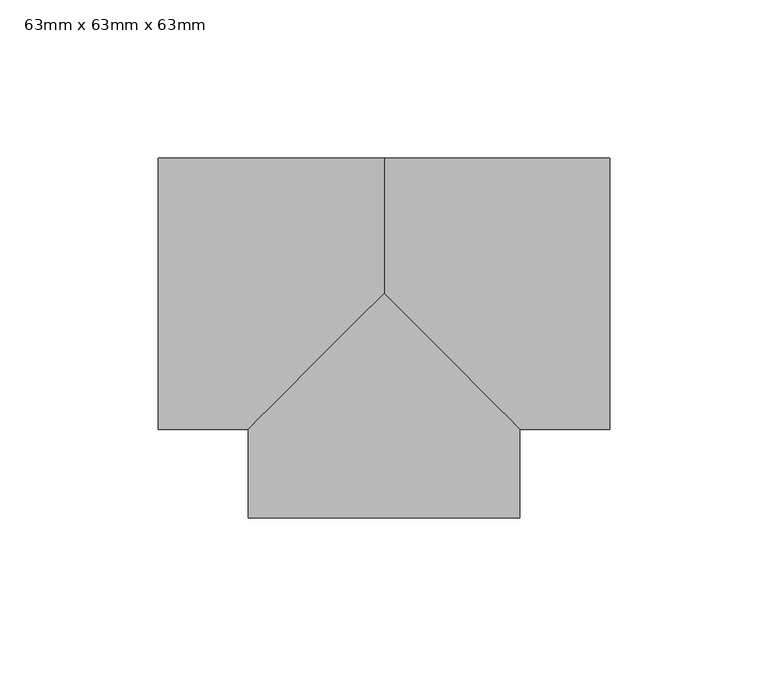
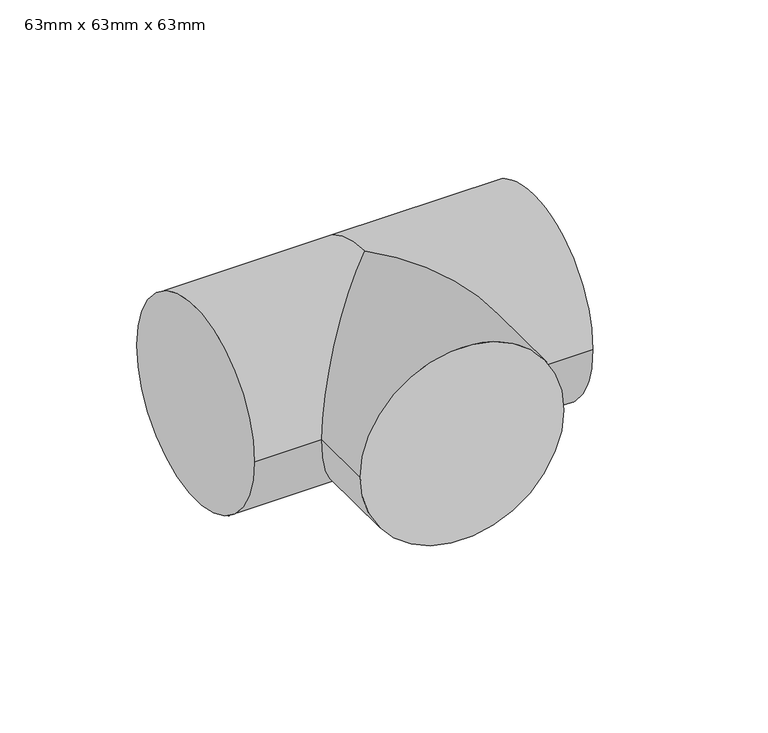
"""IFC4 building model written with IfcOpenShell, lengths in millimetres: pipe fitting geometry, PipeFitting_HTA_CPVC_Tees90° : 63mm x 63mm x 63mm."""

import ifcopenshell
import ifcopenshell.guid

model = None  # the IFC model being written
_history = None  # IfcOwnerHistory: only IFC2X3 demands one
_inside = {}  # id of a spatial element -> (the spatial element, [elements in it])
_under = {}  # id of a project, library or spatial element -> (it, [spatial elements below it])
_declared = {}  # id of a project -> (the project, [libraries it declares])
_typed = {}  # id of a type object -> (the type object, [elements of that type])
_made_of = {}  # id of a material, layer set ... -> (it, [elements and type objects made of it])


def new_model(schema):
    """Start an empty IFC model of exactly this schema.

    Asked for "IFC4X3", IfcOpenShell would pick the latest addendum, in which some entities
    have other attributes; the version numbers below select the first issue.
    IFC2X3 requires an IfcOwnerHistory on every rooted entity: one is made here for all.
    """
    global model, _history
    if schema == "IFC4X3":
        model = ifcopenshell.file(schema_version=(4, 3, 0, 0))
    else:
        model = ifcopenshell.file(schema=schema)
    _inside.clear()
    _under.clear()
    _declared.clear()
    _typed.clear()
    _made_of.clear()
    _history = None
    if model.schema == "IFC2X3":
        org = make("IfcOrganization", Name="unknown")
        user = make(
            "IfcPersonAndOrganization",
            ThePerson=make("IfcPerson", FamilyName="unknown"),
            TheOrganization=org,
        )
        app = make(
            "IfcApplication",
            ApplicationDeveloper=org,
            Version="unknown",
            ApplicationFullName="unknown",
            ApplicationIdentifier="unknown",
        )
        _history = make(
            "IfcOwnerHistory",
            OwningUser=user,
            OwningApplication=app,
            ChangeAction="ADDED",
            CreationDate=0,
        )
    return model


def make(cls, **values):
    """One entity of the class cls with the attributes given. An attribute that is None is left unset."""
    return model.create_entity(
        cls, **{name: value for name, value in values.items() if value is not None}
    )


def rooted(cls, **values):
    """An entity with a GlobalId (a new one), such as an element, a storey or a relation."""
    return make(cls, GlobalId=ifcopenshell.guid.new(), OwnerHistory=_history, **values)


def si_unit(unit_type, name, prefix=None):
    """IfcSIUnit, for example si_unit("LENGTHUNIT", "METRE", prefix="MILLI")."""
    return make("IfcSIUnit", UnitType=unit_type, Prefix=prefix, Name=name)


def assignment(units):
    """IfcUnitAssignment: the units of a project."""
    return None if units is None else make("IfcUnitAssignment", Units=units)


def point(xyz):
    """IfcCartesianPoint."""
    return None if xyz is None else make("IfcCartesianPoint", Coordinates=xyz)


def direction(xyz):
    """IfcDirection."""
    return None if xyz is None else make("IfcDirection", DirectionRatios=xyz)


def frame(location, z_axis=None, x_axis=None):
    """IfcAxis2Placement3D, a coordinate frame: its origin and axes. An axis left out is left unset."""
    return make(
        "IfcAxis2Placement3D",
        Location=point(location),
        Axis=direction(z_axis),
        RefDirection=direction(x_axis),
    )


def origin():
    """The frame at (0, 0, 0) with its axes left unset."""
    return frame((0.0, 0.0, 0.0))


def place(relative_to, where):
    """IfcLocalPlacement: puts the frame where relative to a parent placement (None: the world)."""
    return make(
        "IfcLocalPlacement", PlacementRelTo=relative_to, RelativePlacement=where
    )


def context(
    kind, dimensions, precision=None, world=None, true_north=None, identifier=None
):
    """IfcGeometricRepresentationContext, for example the 3D "Model" context."""
    return make(
        "IfcGeometricRepresentationContext",
        ContextIdentifier=identifier,
        ContextType=kind,
        CoordinateSpaceDimension=dimensions,
        Precision=precision,
        WorldCoordinateSystem=world,
        TrueNorth=true_north,
    )


def project(units=None, contexts=None):
    """IfcProject with its units and contexts."""
    return rooted(
        "IfcProject",
        Name="project",
        RepresentationContexts=contexts,
        UnitsInContext=assignment(units),
    )


def spatial(cls, under=None, at=None, **own):
    """A site, building, storey or space (cls), placed at a placement, below another one or the project."""
    s = rooted(cls, ObjectPlacement=at, **own)
    if under is not None:
        _under.setdefault(under.id(), (under, []))[1].append(s)
    return s


def circle_curve(where, radius):
    """IfcCircle in the frame where."""
    return make("IfcCircle", Position=where, Radius=radius)


def ellipse_curve(where, semi_axis1, semi_axis2):
    """IfcEllipse in the frame where."""
    return make(
        "IfcEllipse", Position=where, SemiAxis1=semi_axis1, SemiAxis2=semi_axis2
    )


def shape(context_of_items, identifier, shape_type, items):
    """IfcShapeRepresentation: the items that make up one representation, for example the "Body"."""
    return make(
        "IfcShapeRepresentation",
        ContextOfItems=context_of_items,
        RepresentationIdentifier=identifier,
        RepresentationType=shape_type,
        Items=items,
    )


def source(mapping_origin, context_of_items, identifier, shape_type, items):
    """IfcRepresentationMap: a shape defined once, which mapped items show again and again."""
    return make(
        "IfcRepresentationMap",
        MappingOrigin=mapping_origin,
        MappedRepresentation=shape(context_of_items, identifier, shape_type, items),
    )


def transform(
    local_origin,
    x_axis=None,
    y_axis=None,
    z_axis=None,
    scale=None,
    scale2=None,
    scale3=None,
    uniform=True,
):
    """IfcCartesianTransformationOperator3D, or its non-uniform kind. x_axis, y_axis, z_axis: its Axis1, 2, 3."""
    if uniform:
        return make(
            "IfcCartesianTransformationOperator3D",
            Axis1=direction(x_axis),
            Axis2=direction(y_axis),
            LocalOrigin=point(local_origin),
            Scale=scale,
            Axis3=direction(z_axis),
        )
    return make(
        "IfcCartesianTransformationOperator3DnonUniform",
        Axis1=direction(x_axis),
        Axis2=direction(y_axis),
        LocalOrigin=point(local_origin),
        Scale=scale,
        Axis3=direction(z_axis),
        Scale2=scale2,
        Scale3=scale3,
    )


def mapped(mapping_source, mapping_target):
    """IfcMappedItem: shows the shape of a source again, moved by a transform."""
    return make(
        "IfcMappedItem", MappingSource=mapping_source, MappingTarget=mapping_target
    )


def made_of(thing, what):
    """Note that an element or type object is made of a material, layer set ...; save() writes the relation."""
    if what is not None:
        _made_of.setdefault(what.id(), (what, []))[1].append(thing)
    return thing


def element(
    cls,
    number,
    at=None,
    inside=None,
    cuts=None,
    type_object=None,
    material=None,
    context=None,
    identifier="Body",
    shape_type=None,
    held_by="IfcProductDefinitionShape",
    body=None,
    shapes=None,
    **own,
):
    """One element of the class cls, such as IfcWall. Its Tag is "e" and its number.

    at: its placement. inside: the storey or other place that contains it. cuts: it is an
    opening in that element (IfcRelVoidsElement). A single representation is given by context,
    identifier, shape_type and body (its items); several are given by shapes. held_by: the class
    of the entity that holds the representations. save() writes the other relations.
    """
    e = rooted(cls, Tag="e%d" % number, ObjectPlacement=at, **own)
    if body is not None:
        shapes = [shape(context, identifier, shape_type, body)]
    if shapes is not None:
        e.Representation = make(held_by, Representations=shapes)
    if inside is not None:
        _inside.setdefault(inside.id(), (inside, []))[1].append(e)
    if cuts is not None:
        rooted(
            "IfcRelVoidsElement", RelatingBuildingElement=cuts, RelatedOpeningElement=e
        )
    if type_object is not None:
        _typed.setdefault(type_object.id(), (type_object, []))[1].append(e)
    return made_of(e, material)


def aggregate(whole, parts):
    """IfcRelAggregates: a whole, such as a stair, and the parts it consists of."""
    return rooted("IfcRelAggregates", RelatingObject=whole, RelatedObjects=parts)


def save(model, path):
    """Write the relations noted so far, then the file.

    IfcRelAggregates (storeys below a building ...), IfcRelContainedInSpatialStructure (elements
    in a storey), IfcRelDefinesByType, IfcRelAssociatesMaterial and IfcRelDeclares: one each for
    every whole, place, type object, material and project.
    """
    for whole, parts in _under.values():
        aggregate(whole, parts)
    for where, things in _inside.values():
        rooted(
            "IfcRelContainedInSpatialStructure",
            RelatedElements=things,
            RelatingStructure=where,
        )
    for kind, things in _typed.values():
        rooted("IfcRelDefinesByType", RelatedObjects=things, RelatingType=kind)
    for what, things in _made_of.values():
        rooted("IfcRelAssociatesMaterial", RelatedObjects=things, RelatingMaterial=what)
    for by, libraries in _declared.values():
        rooted("IfcRelDeclares", RelatingContext=by, RelatedDefinitions=libraries)
    model.write(path)


def plane_surface(at):
    """IfcPlane: the flat surface through the origin of the frame at, square to its z axis."""
    return make("IfcPlane", Position=at)


def cylinder_surface(at, radius):
    """IfcCylindricalSurface: all points at the distance radius from the z axis of the frame at."""
    return make("IfcCylindricalSurface", Position=at, Radius=radius)


def advanced_brep(points, edges, surfaces, faces):
    """IfcAdvancedBrep: a solid bounded by faces that lie on surfaces and meet in shared edges.

    An edge is (start, end): straight between two places in points (the first is 0);
    or (start, end, curve); or (start, end, curve, False) where it runs against its curve.
    A face is (place in surfaces, loops), or (place, loops, False) where it looks against
    its surface's normal. A loop lists edges by number (the first is 1), with a minus sign
    where the edge is run from its end to its start. The first loop is the outer one.
    """
    corners = [point(p) for p in points]
    vertices = [make("IfcVertexPoint", VertexGeometry=c) for c in corners]
    made = []
    for start, end, *more in edges:
        made.append(
            make(
                "IfcEdgeCurve",
                EdgeStart=vertices[start],
                EdgeEnd=vertices[end],
                EdgeGeometry=more[0] if more else make("IfcPolyline", Points=[corners[start], corners[end]]),
                SameSense=more[1] if len(more) > 1 else True,
            )
        )
    hull = []
    for where, loops, *sense in faces:
        bounds = []
        for j, loop in enumerate(loops):
            ring = [make("IfcOrientedEdge", EdgeElement=made[abs(k) - 1], Orientation=k > 0) for k in loop]
            bounds.append(
                make(
                    "IfcFaceOuterBound" if j == 0 else "IfcFaceBound",
                    Bound=make("IfcEdgeLoop", EdgeList=ring),
                    Orientation=True,
                )
            )
        hull.append(make("IfcAdvancedFace", Bounds=bounds, FaceSurface=surfaces[where], SameSense=sense[0] if sense else True))
    return make("IfcAdvancedBrep", Outer=make("IfcClosedShell", CfsFaces=hull))


def pipe_fitting_63mm_x_63mm_x_63mm_e45cfde3(model_context):
    return source(origin(), model_context, "Body", "AdvancedBrep", [
        advanced_brep(
        [(-43.0, -71.0, 0.0), (43.0, -71.0, 0.0), (43.0, -43.0, 0.0), (0.0, 0.0, 43.0), (-43.0, -43.0, 0.0), (0.0, 0.0, -43.0), (-71.5, -43.0, 0.0), (-71.5, 43.0, 0.0), (0.0, 43.0, 0.0), (71.5, -43.0, 0.0), (71.5, 43.0, 0.0)],
        [
            (0, 1, circle_curve(frame((0.0, -71.0, 0.0), z_axis=(0.0, -1.0, 0.0), x_axis=(1.0, 0.0, 0.0)), 43.0)),
            (1, 0, circle_curve(frame((0.0, -71.0, 0.0), z_axis=(0.0, -1.0, 0.0), x_axis=(1.0, 0.0, 0.0)), 43.0)),
            (1, 2),
            (2, 3, ellipse_curve(frame((0.0, 0.0, 0.0), z_axis=(-0.7071067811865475, -0.7071067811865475, 0.0), x_axis=(-0.7071067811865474, 0.7071067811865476, 0.0)), 60.8111832, 43.0)),
            (3, 4, ellipse_curve(frame((0.0, 0.0, 0.0), z_axis=(0.7071067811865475, -0.7071067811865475, 0.0), x_axis=(0.7071067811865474, 0.7071067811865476, 0.0)), 60.8111832, 43.0)),
            (4, 0),
            (4, 5, ellipse_curve(frame((0.0, 0.0, 0.0), z_axis=(0.7071067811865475, -0.7071067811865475, 0.0), x_axis=(0.7071067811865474, 0.7071067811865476, 0.0)), 60.8111832, 43.0)),
            (5, 2, ellipse_curve(frame((0.0, 0.0, 0.0), z_axis=(-0.7071067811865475, -0.7071067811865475, 0.0), x_axis=(-0.7071067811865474, 0.7071067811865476, 0.0)), 60.8111832, 43.0)),
            (6, 7, circle_curve(frame((-71.5, 0.0, 0.0), z_axis=(-1.0, 0.0, 0.0), x_axis=(0.0, 1.0, 0.0)), 43.0)),
            (7, 6, circle_curve(frame((-71.5, 0.0, 0.0), z_axis=(-1.0, 0.0, 0.0), x_axis=(0.0, 1.0, 0.0)), 43.0)),
            (6, 4),
            (3, 8, circle_curve(frame((0.0, 0.0, 0.0), z_axis=(-1.0, 0.0, 0.0), x_axis=(0.0, 1.0, 0.0)), 43.0)),
            (8, 7),
            (8, 5, circle_curve(frame((0.0, 0.0, 0.0), z_axis=(-1.0, 0.0, 0.0), x_axis=(0.0, 1.0, 0.0)), 43.0)),
            (9, 10, circle_curve(frame((71.5, 0.0, 0.0), z_axis=(1.0, 0.0, 0.0), x_axis=(0.0, 1.0, 0.0)), 43.0)),
            (10, 9, circle_curve(frame((71.5, 0.0, 0.0), z_axis=(1.0, 0.0, 0.0), x_axis=(0.0, 1.0, 0.0)), 43.0)),
            (10, 8),
            (2, 9),
        ],
        [
            plane_surface(frame((0.0, -71.0, 0.0), z_axis=(0.0, -1.0, 0.0), x_axis=(0.0, 0.0, 1.0))),
            cylinder_surface(frame((0.0, 0.0, 0.0), z_axis=(0.0, 1.0, 0.0), x_axis=(1.0, 0.0, 0.0)), 43.0),
            plane_surface(frame((-71.5, 0.0, 0.0), z_axis=(-1.0, 0.0, 0.0), x_axis=(0.0, 0.0, 1.0))),
            cylinder_surface(frame((-71.5, 0.0, 0.0), z_axis=(-1.0, 0.0, 0.0), x_axis=(0.0, 1.0, 0.0)), 43.0),
            plane_surface(frame((71.5, 0.0, 0.0), z_axis=(1.0, 0.0, 0.0), x_axis=(0.0, 0.0, 1.0))),
            cylinder_surface(frame((0.0, 0.0, 0.0), z_axis=(-1.0, 0.0, 0.0), x_axis=(0.0, 1.0, 0.0)), 43.0),
        ],
        [
            (0, [[1, 2]]),
            (1, [[-2, 3, 4, 5, 6]]),
            (1, [[-1, -6, 7, 8, -3]]),
            (2, [[9, 10]]),
            (3, [[-9, 11, -5, 12, 13]]),
            (3, [[-10, -13, 14, -7, -11]]),
            (4, [[15, 16]]),
            (5, [[-16, 17, -12, -4, 18]]),
            (5, [[-15, -18, -8, -14, -17]]),
        ],
    ),
    ])


if __name__ == "__main__":
    model = new_model("IFC4")
    model_context = context("Model", 3, world=origin())
    ifc_project = project(units=[si_unit("LENGTHUNIT", "METRE", prefix="MILLI")], contexts=[model_context])
    site = spatial("IfcSite", under=ifc_project)
    building = spatial("IfcBuilding", under=site)
    placement = place(None, origin())
    pipe_fitting_63mm_x_63mm_x_63mm_shape = pipe_fitting_63mm_x_63mm_x_63mm_e45cfde3(model_context)
    element("IfcPipeFitting", 1, ObjectType="PipeFitting_HTA_CPVC_Tees90° : 63mm x 63mm x 63mm", at=placement, inside=building, context=model_context, shape_type="MappedRepresentation", body=[
        mapped(pipe_fitting_63mm_x_63mm_x_63mm_shape, transform((0.0, 0.0, 0.0), x_axis=(1.0, 0.0, 0.0), y_axis=(0.0, 1.0, 0.0), z_axis=(0.0, 0.0, 1.0))),
    ])
    save(model, "model.ifc")
